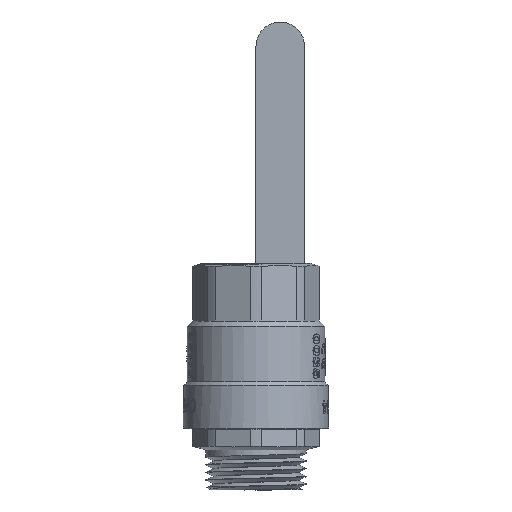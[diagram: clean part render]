
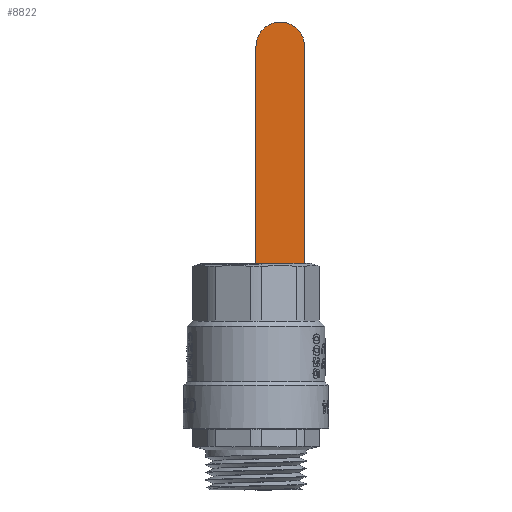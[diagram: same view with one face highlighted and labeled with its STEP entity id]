
A CAD part, front view. The second image highlights one B-rep face of the part: STEP entity #8822.
In plain terms, the highlighted planar face has unit normal (0, -1, 0).
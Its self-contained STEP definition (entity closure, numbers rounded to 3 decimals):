
#365=PLANE('',#9464);
#659=CIRCLE('',#9447,7.25);
#1239=FACE_OUTER_BOUND('',#1798,.T.);
#1798=EDGE_LOOP('',(#8147,#8148,#8149,#8150));
#2404=LINE('',#23760,#3020);
#2410=LINE('',#23777,#3026);
#2414=LINE('',#23787,#3030);
#3020=VECTOR('',#11292,10.);
#3026=VECTOR('',#11310,10.);
#3030=VECTOR('',#11324,10.);
#4230=VERTEX_POINT('',#23742);
#4231=VERTEX_POINT('',#23743);
#4235=VERTEX_POINT('',#23758);
#4240=VERTEX_POINT('',#23776);
#5522=EDGE_CURVE('',#4230,#4231,#659,.T.);
#5531=EDGE_CURVE('',#4231,#4235,#2404,.T.);
#5539=EDGE_CURVE('',#4230,#4240,#2410,.T.);
#5544=EDGE_CURVE('',#4235,#4240,#2414,.T.);
#8147=ORIENTED_EDGE('',*,*,#5531,.T.);
#8148=ORIENTED_EDGE('',*,*,#5544,.T.);
#8149=ORIENTED_EDGE('',*,*,#5539,.F.);
#8150=ORIENTED_EDGE('',*,*,#5522,.T.);
#8822=ADVANCED_FACE('',(#1239),#365,.T.);
#9447=AXIS2_PLACEMENT_3D('',#23744,#11274,#11275);
#9464=AXIS2_PLACEMENT_3D('',#23788,#11325,#11326);
#11274=DIRECTION('center_axis',(0.,-1.,0.));
#11275=DIRECTION('ref_axis',(-1.,0.,0.));
#11292=DIRECTION('',(0.,0.,-1.));
#11310=DIRECTION('',(0.,0.,-1.));
#11324=DIRECTION('',(1.,0.,0.));
#11325=DIRECTION('center_axis',(0.,-1.,0.));
#11326=DIRECTION('ref_axis',(0.,0.,-1.));
#23742=CARTESIAN_POINT('',(14.5,46.795,98.599));
#23743=CARTESIAN_POINT('',(0.,46.795,98.599));
#23744=CARTESIAN_POINT('Origin',(7.25,46.795,98.599));
#23758=CARTESIAN_POINT('',(0.,46.795,32.028));
#23760=CARTESIAN_POINT('',(0.,46.795,104.38));
#23776=CARTESIAN_POINT('',(14.5,46.795,32.028));
#23777=CARTESIAN_POINT('',(14.5,46.795,110.161));
#23787=CARTESIAN_POINT('',(0.,46.795,32.028));
#23788=CARTESIAN_POINT('Origin',(0.,46.795,110.161));
